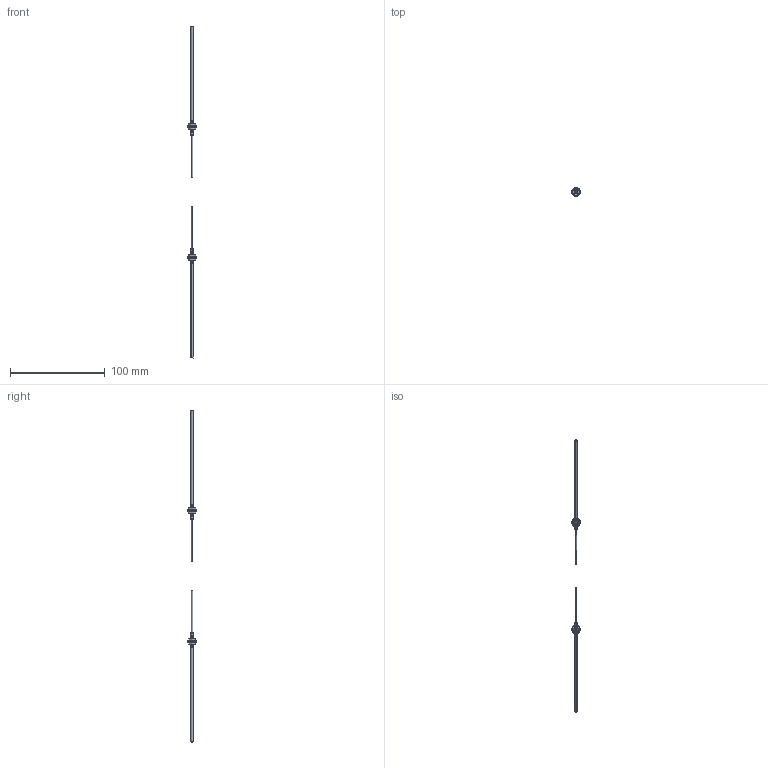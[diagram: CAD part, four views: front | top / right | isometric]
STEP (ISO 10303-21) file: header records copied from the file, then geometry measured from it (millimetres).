
FILE_DESCRIPTION (( 'STEP AP214' ), '1' );
FILE_NAME ('FTS2-420-10.STEP', '2019-06-18T02:43:17', ( '' ), ( '' ), 'SwSTEP 2.0', 'SolidWorks 2018', '' );
FILE_SCHEMA (( 'AUTOMOTIVE_DESIGN' ));
Length unit declared in the file: millimetre
Products named in the file (1): FTS2-420-10
Bounding box: 9 x 9 x 350 mm (x, y, z)
Volume: 1632.2 mm3; surface area: 3386.9 mm2
Topology: 10 solids, 10 shells, 252 faces, 594 edges, 372 vertices
Faces by surface type: cylinder 112, cone 80, plane 54, bspline 6
Entity records: 12433 total; most frequent: CARTESIAN_POINT 6913, ORIENTED_EDGE 1188, DIRECTION 1004, EDGE_CURVE 594, AXIS2_PLACEMENT_3D 419, VERTEX_POINT 372, EDGE_LOOP 278, FACE_OUTER_BOUND 252
